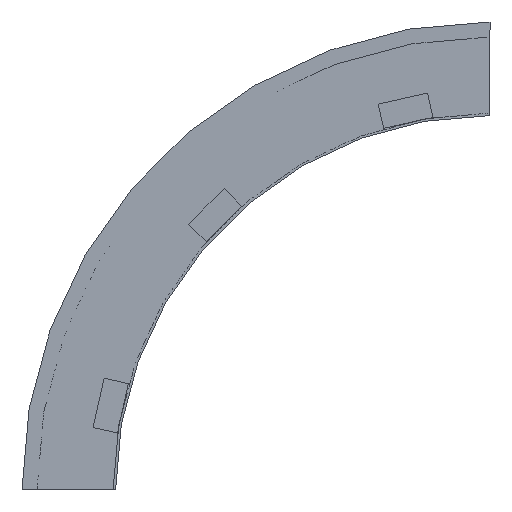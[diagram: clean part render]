
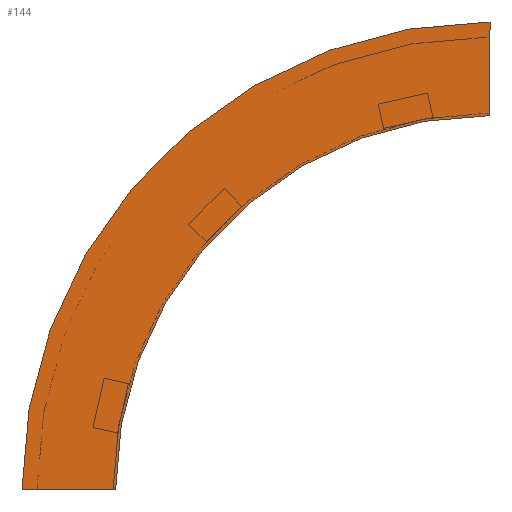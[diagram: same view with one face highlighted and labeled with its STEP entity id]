
A CAD part, left-side view. The second image highlights one B-rep face of the part: STEP entity #144.
In plain terms, the highlighted planar face has unit normal (-1, 0, 0) as drawn and (1, 0, 0) by its records, which use the part's own axes.
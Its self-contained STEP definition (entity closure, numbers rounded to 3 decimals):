
#5 = LINE ( 'NONE', #545, #166 ) ;
#54 = DIRECTION ( 'NONE',  ( 1., 0., 0. ) ) ;
#71 = CARTESIAN_POINT ( 'NONE',  ( 0., 0., 0. ) ) ;
#82 = ORIENTED_EDGE ( 'NONE', *, *, #556, .T. ) ;
#105 = EDGE_LOOP ( 'NONE', ( #82, #489, #291, #263 ) ) ;
#106 = CARTESIAN_POINT ( 'NONE',  ( 0., -300., 300. ) ) ;
#110 = DIRECTION ( 'NONE',  ( 0., 1., 0. ) ) ;
#128 = VERTEX_POINT ( 'NONE', #106 ) ;
#137 = DIRECTION ( 'NONE',  ( 0., 0., 1. ) ) ;
#139 = DIRECTION ( 'NONE',  ( 0., 1., 0. ) ) ;
#144 = ADVANCED_FACE ( 'NONE', ( #520 ), #292, .T. ) ;
#152 = VERTEX_POINT ( 'NONE', #253 ) ;
#166 = VECTOR ( 'NONE', #137, 1000. ) ;
#194 = AXIS2_PLACEMENT_3D ( 'NONE', #464, #54, #139 ) ;
#199 = DIRECTION ( 'NONE',  ( 1., 0., 0. ) ) ;
#201 = LINE ( 'NONE', #468, #493 ) ;
#204 = CARTESIAN_POINT ( 'NONE',  ( 0., 0., 0. ) ) ;
#233 = CIRCLE ( 'NONE', #194, 300. ) ;
#253 = CARTESIAN_POINT ( 'NONE',  ( 0., 75., 0. ) ) ;
#263 = ORIENTED_EDGE ( 'NONE', *, *, #544, .T. ) ;
#291 = ORIENTED_EDGE ( 'NONE', *, *, #403, .F. ) ;
#292 = PLANE ( 'NONE',  #509 ) ;
#327 = VERTEX_POINT ( 'NONE', #574 ) ;
#403 = EDGE_CURVE ( 'NONE', #469, #128, #233, .T. ) ;
#414 = AXIS2_PLACEMENT_3D ( 'NONE', #561, #475, #510 ) ;
#423 = EDGE_CURVE ( 'NONE', #128, #327, #5, .T. ) ;
#464 = CARTESIAN_POINT ( 'NONE',  ( 0., -300., 0. ) ) ;
#468 = CARTESIAN_POINT ( 'NONE',  ( 0., 0., 0. ) ) ;
#469 = VERTEX_POINT ( 'NONE', #204 ) ;
#475 = DIRECTION ( 'NONE',  ( 1., 0., 0. ) ) ;
#476 = DIRECTION ( 'NONE',  ( 0., 0., -1. ) ) ;
#489 = ORIENTED_EDGE ( 'NONE', *, *, #423, .F. ) ;
#493 = VECTOR ( 'NONE', #110, 1000. ) ;
#502 = CIRCLE ( 'NONE', #414, 375. ) ;
#509 = AXIS2_PLACEMENT_3D ( 'NONE', #71, #199, #476 ) ;
#510 = DIRECTION ( 'NONE',  ( 0., 1., 0. ) ) ;
#520 = FACE_OUTER_BOUND ( 'NONE', #105, .T. ) ;
#544 = EDGE_CURVE ( 'NONE', #469, #152, #201, .T. ) ;
#545 = CARTESIAN_POINT ( 'NONE',  ( 0., -300., 300. ) ) ;
#556 = EDGE_CURVE ( 'NONE', #152, #327, #502, .T. ) ;
#561 = CARTESIAN_POINT ( 'NONE',  ( 0., -300., 0. ) ) ;
#574 = CARTESIAN_POINT ( 'NONE',  ( 0., -300., 375. ) ) ;
